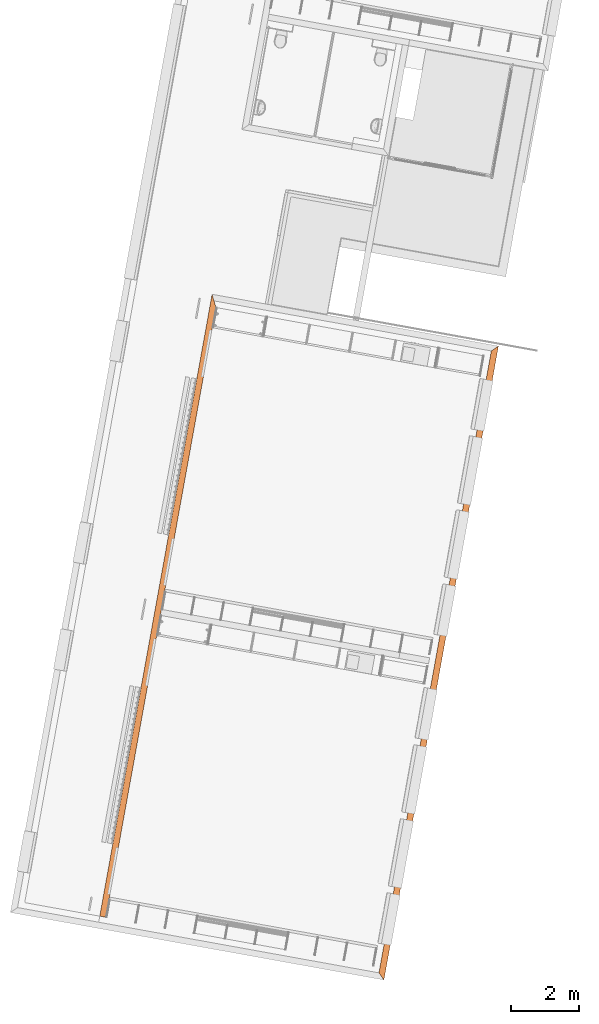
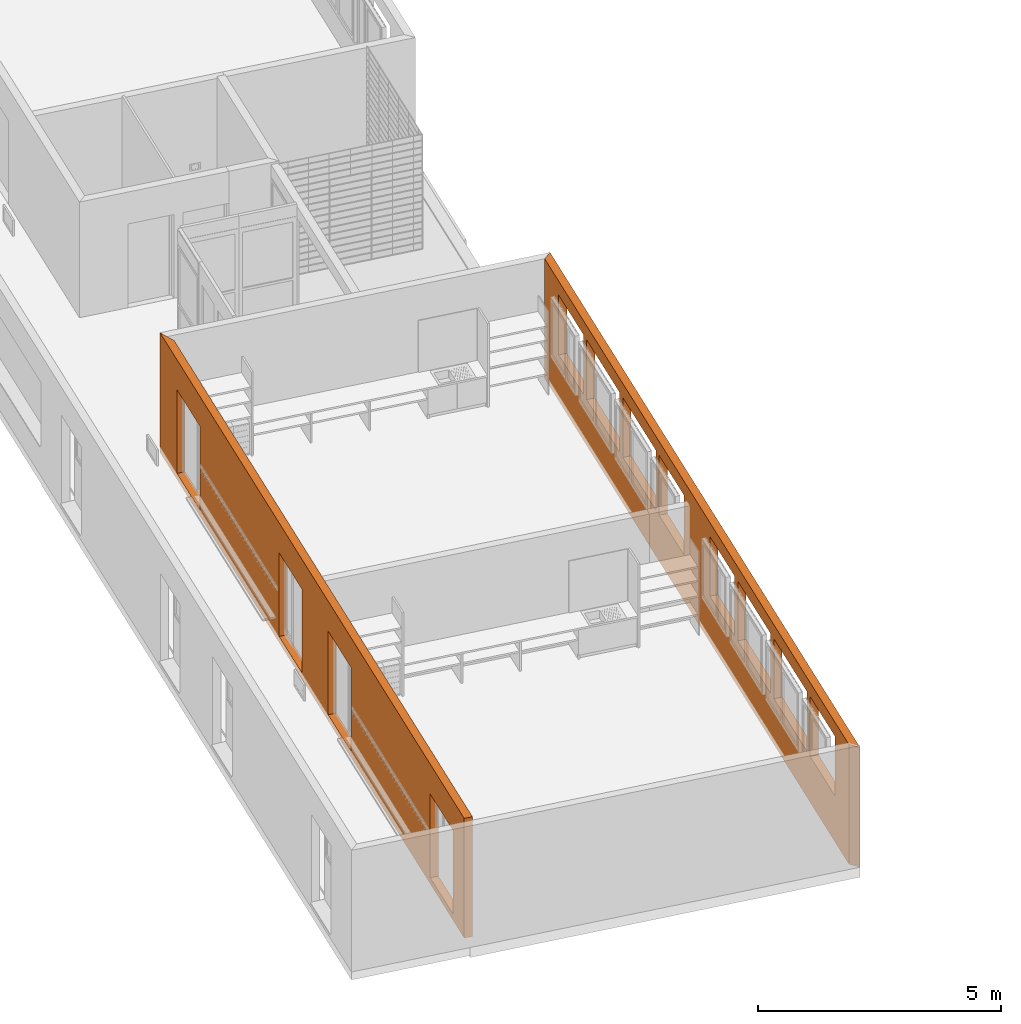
# One storey, part 37 of 52: 2 proxies.
"""IFC2X3 building model written with IfcOpenShell, lengths in metres."""

from ifc_helpers import new_model, entity, si_unit, converted_unit, derived_unit, money_unit, direction, frame, origin_with_axes, place, context, subcontext, project, spatial, polyline, outline, extrude, boolean, faceted_brep, material, type_object, element, save


model = new_model("IFC2X3")

# Units and contexts
model_context = context("Model", 3, precision=1e-05, world=origin_with_axes(), true_north=direction((0.0, 1.0)))
body_context = subcontext(model_context, "Body", "Model", "MODEL_VIEW")
ifc_project = project(units=[si_unit("LENGTHUNIT", "METRE"), si_unit("AREAUNIT", "SQUARE_METRE"), si_unit("VOLUMEUNIT", "CUBIC_METRE"), converted_unit("PLANEANGLEUNIT", "DEGREE", entity("IfcPlaneAngleMeasure", 0.0174532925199), si_unit("PLANEANGLEUNIT", "RADIAN"), dimensions=[0, 0, 0, 0, 0, 0, 0]), money_unit("CHF"), converted_unit("TIMEUNIT", "Year", entity("IfcTimeMeasure", 31556926.0), si_unit("TIMEUNIT", "SECOND"), dimensions=[0, 0, 1, 0, 0, 0, 0]), si_unit("MASSUNIT", "GRAM", prefix="KILO"), si_unit("THERMODYNAMICTEMPERATUREUNIT", "DEGREE_CELSIUS"), si_unit("LUMINOUSINTENSITYUNIT", "LUMEN"), si_unit("ENERGYUNIT", "JOULE", prefix="MEGA"), derived_unit("THERMALCONDUCTANCEUNIT", [(si_unit("POWERUNIT", "WATT"), 1), (si_unit("LENGTHUNIT", "METRE"), -1), (si_unit("THERMODYNAMICTEMPERATUREUNIT", "KELVIN"), -1)]), derived_unit("SPECIFICHEATCAPACITYUNIT", [(si_unit("ENERGYUNIT", "JOULE"), 1), (si_unit("MASSUNIT", "GRAM", prefix="KILO"), -1), (si_unit("THERMODYNAMICTEMPERATUREUNIT", "KELVIN"), -1)]), derived_unit("MASSDENSITYUNIT", [(si_unit("MASSUNIT", "GRAM", prefix="KILO"), 1), (si_unit("VOLUMEUNIT", "CUBIC_METRE"), -1)])], contexts=[model_context])

# Site, building, storey
site_placement = place(None, frame((0.0, 0.0, 0.0), z_axis=(0.0, 0.0, 1.0), x_axis=(-0.177771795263, -0.984071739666, 0.0)))
site = spatial("IfcSite", under=ifc_project, at=site_placement, Name="Site", CompositionType="ELEMENT")
building_placement = place(site_placement, origin_with_axes())
building = spatial("IfcBuilding", under=site, at=building_placement, Name="Bâtiment", CompositionType="ELEMENT")
storey_placement = place(building_placement, frame((0.0, 0.0, 3.2), z_axis=(0.0, 0.0, 1.0), x_axis=(1.0, 0.0, 0.0)))
storey = spatial("IfcBuildingStorey", under=building, at=storey_placement, Name="R+1", CompositionType="ELEMENT", Elevation=3.2)

# Proxies
ifc_material = material(Name="_BA banché RAL9007")
building_element_proxy_type_1 = type_object("IfcBuildingElementProxyType", Name="_BA banché RAL9007 180", PredefinedType="NOTDEFINED")
proxy_1_placement = place(storey_placement, frame((165.029841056, -156.62715293, -0.15), z_axis=(0.0, 0.0, 1.0), x_axis=(-1.0, 0.0, 0.0)))
element("IfcBuildingElementProxy", 1, at=proxy_1_placement, inside=storey, type_object=building_element_proxy_type_1, material=ifc_material, Name="M refend", context=body_context, shape_type="CSG", body=[
    boolean("DIFFERENCE", boolean("DIFFERENCE", boolean("DIFFERENCE", boolean("DIFFERENCE", extrude(outline(polyline([(0.36000000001, -0.18), (18.479999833, -0.18), (18.839999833, 0.0), (0.36000000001, 0.0), (0.36000000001, -0.18)])), origin_with_axes(), (0.0, 0.0, 1.0), 3.0), faceted_brep([(17.8099998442, 0.0, 0.15), (16.4099998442, 0.0, 0.15), (16.4099998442, 0.0, 2.25), (17.8099998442, 0.0, 2.25), (17.8099998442, -0.18, 0.15), (16.4099998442, -0.18, 0.15), (16.4099998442, -0.18, 2.25), (17.8099998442, -0.18, 2.25)], [[[0, 1, 2, 3]], [[4, 5, 1, 0]], [[5, 6, 2, 1]], [[6, 7, 3, 2]], [[7, 4, 0, 3]], [[4, 7, 6, 5]]])), faceted_brep([(11.61, 0.0, 0.15), (10.21, 0.0, 0.15), (10.21, 0.0, 2.25), (11.61, 0.0, 2.25), (11.61, -0.18, 0.15), (10.21, -0.18, 0.15), (10.21, -0.18, 2.25), (11.61, -0.18, 2.25)], [[[0, 1, 2, 3]], [[4, 5, 1, 0]], [[5, 6, 2, 1]], [[6, 7, 3, 2]], [[7, 4, 0, 3]], [[4, 7, 6, 5]]])), faceted_brep([(8.63, 0.0, 0.15), (7.23, 0.0, 0.15), (7.23, 0.0, 2.25), (8.63, 0.0, 2.25), (8.63, -0.18, 0.15), (7.23, -0.18, 0.15), (7.23, -0.18, 2.25), (8.63, -0.18, 2.25)], [[[0, 1, 2, 3]], [[4, 5, 1, 0]], [[5, 6, 2, 1]], [[6, 7, 3, 2]], [[7, 4, 0, 3]], [[4, 7, 6, 5]]])), faceted_brep([(2.43, 0.0, 0.15), (1.03, 0.0, 0.15), (1.03, 0.0, 2.25), (2.43, 0.0, 2.25), (2.43, -0.18, 0.15), (1.03, -0.18, 0.15), (1.03, -0.18, 2.25), (2.43, -0.18, 2.25)], [[[0, 1, 2, 3]], [[4, 5, 1, 0]], [[5, 6, 2, 1]], [[6, 7, 3, 2]], [[7, 4, 0, 3]], [[4, 7, 6, 5]]])),
])
building_element_proxy_type_2 = type_object("IfcBuildingElementProxyType", Name="_M ext 18 +18 gris 360", PredefinedType="NOTDEFINED")
proxy_2_placement = place(storey_placement, frame((165.029841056, -148.117150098, -0.15), z_axis=(0.0, 0.0, 1.0), x_axis=(-1.0, 0.0, 0.0)))
element("IfcBuildingElementProxy", 2, at=proxy_2_placement, inside=storey, type_object=building_element_proxy_type_2, material=ifc_material, Name="M ext-Est", context=body_context, shape_type="CSG", body=[
    boolean("DIFFERENCE", boolean("DIFFERENCE", boolean("DIFFERENCE", boolean("DIFFERENCE", boolean("DIFFERENCE", boolean("DIFFERENCE", boolean("DIFFERENCE", boolean("DIFFERENCE", extrude(outline(polyline([(0.0, 0.0), (18.839999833, 0.0), (18.659999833, 0.18), (0.18, 0.18), (0.0, 0.0)])), origin_with_axes(), (0.0, 0.0, 1.0), 3.0), faceted_brep([(17.8099998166, 0.18, 1.15), (16.3099998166, 0.18, 1.15), (16.3099998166, 0.18, 2.65), (17.8099998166, 0.18, 2.65), (17.8099998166, 0.0, 1.15), (16.3099998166, 0.0, 1.15), (16.3099998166, 0.0, 2.65), (17.8099998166, 0.0, 2.65)], [[[0, 1, 2, 3]], [[4, 5, 1, 0]], [[5, 6, 2, 1]], [[6, 7, 3, 2]], [[7, 4, 0, 3]], [[4, 7, 6, 5]]])), faceted_brep([(16.1099998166, 0.18, 1.15), (14.1099998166, 0.18, 1.15), (14.1099998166, 0.18, 2.65), (16.1099998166, 0.18, 2.65), (16.1099998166, 0.0, 1.15), (14.1099998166, 0.0, 1.15), (14.1099998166, 0.0, 2.65), (16.1099998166, 0.0, 2.65)], [[[0, 1, 2, 3]], [[4, 5, 1, 0]], [[5, 6, 2, 1]], [[6, 7, 3, 2]], [[7, 4, 0, 3]], [[4, 7, 6, 5]]])), faceted_brep([(13.9099998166, 0.18, 1.15), (11.9099998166, 0.18, 1.15), (11.9099998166, 0.18, 2.65), (13.9099998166, 0.18, 2.65), (13.9099998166, 0.0, 1.15), (11.9099998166, 0.0, 1.15), (11.9099998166, 0.0, 2.65), (13.9099998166, 0.0, 2.65)], [[[0, 1, 2, 3]], [[4, 5, 1, 0]], [[5, 6, 2, 1]], [[6, 7, 3, 2]], [[7, 4, 0, 3]], [[4, 7, 6, 5]]])), faceted_brep([(11.7099998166, 0.18, 1.15), (10.2099998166, 0.18, 1.15), (10.2099998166, 0.18, 2.65), (11.7099998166, 0.18, 2.65), (11.7099998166, 0.0, 1.15), (10.2099998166, 0.0, 1.15), (10.2099998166, 0.0, 2.65), (11.7099998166, 0.0, 2.65)], [[[0, 1, 2, 3]], [[4, 5, 1, 0]], [[5, 6, 2, 1]], [[6, 7, 3, 2]], [[7, 4, 0, 3]], [[4, 7, 6, 5]]])), faceted_brep([(8.6299999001, 0.18, 1.15), (7.1299999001, 0.18, 1.15), (7.1299999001, 0.18, 2.65), (8.6299999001, 0.18, 2.65), (8.6299999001, 0.0, 1.15), (7.1299999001, 0.0, 1.15), (7.1299999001, 0.0, 2.65), (8.6299999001, 0.0, 2.65)], [[[0, 1, 2, 3]], [[4, 5, 1, 0]], [[5, 6, 2, 1]], [[6, 7, 3, 2]], [[7, 4, 0, 3]], [[4, 7, 6, 5]]])), faceted_brep([(6.9299999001, 0.18, 1.15), (4.9299999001, 0.18, 1.15), (4.9299999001, 0.18, 2.65), (6.9299999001, 0.18, 2.65), (6.9299999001, 0.0, 1.15), (4.9299999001, 0.0, 1.15), (4.9299999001, 0.0, 2.65), (6.9299999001, 0.0, 2.65)], [[[0, 1, 2, 3]], [[4, 5, 1, 0]], [[5, 6, 2, 1]], [[6, 7, 3, 2]], [[7, 4, 0, 3]], [[4, 7, 6, 5]]])), faceted_brep([(4.7299999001, 0.18, 1.15), (2.7299999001, 0.18, 1.15), (2.7299999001, 0.18, 2.65), (4.7299999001, 0.18, 2.65), (4.7299999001, 0.0, 1.15), (2.7299999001, 0.0, 1.15), (2.7299999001, 0.0, 2.65), (4.7299999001, 0.0, 2.65)], [[[0, 1, 2, 3]], [[4, 5, 1, 0]], [[5, 6, 2, 1]], [[6, 7, 3, 2]], [[7, 4, 0, 3]], [[4, 7, 6, 5]]])), faceted_brep([(2.5299999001, 0.18, 1.15), (1.0299999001, 0.18, 1.15), (1.0299999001, 0.18, 2.65), (2.5299999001, 0.18, 2.65), (2.5299999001, 0.0, 1.15), (1.0299999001, 0.0, 1.15), (1.0299999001, 0.0, 2.65), (2.5299999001, 0.0, 2.65)], [[[0, 1, 2, 3]], [[4, 5, 1, 0]], [[5, 6, 2, 1]], [[6, 7, 3, 2]], [[7, 4, 0, 3]], [[4, 7, 6, 5]]])),
])

save(model, "model.ifc")
